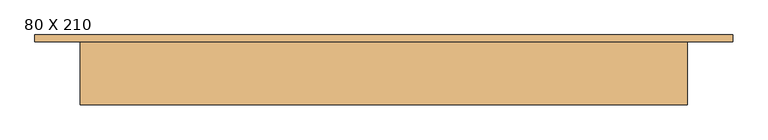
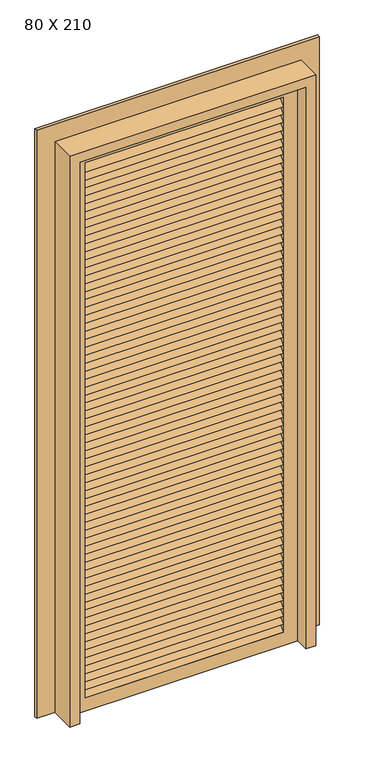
"""IFC4 building model written with IfcOpenShell, lengths in millimetres: door geometry, PORTA VENEZIANA DE ABRIR - 1 FOLHA : 80 X 210."""

from ifc_helpers import new_model, si_unit, frame, origin, place, context, project, spatial, polyline, outline, extrude, source, transform, mapped, element, save


def door_80_x_210_6ad2ea2f(model_context):
    return source(origin(), model_context, "Body", "SweptSolid", [
        extrude(outline(polyline([(40.0, 1985.2272727), (35.0, 1985.2272727), (70.0, 2020.2272727), (75.0, 2020.2272727), (40.0, 1985.2272727)])), frame((-270.0, 0.0, 0.0), z_axis=(1.0, 0.0, 0.0), x_axis=(0.0, 1.0, 0.0)), (0.0, 0.0, 1.0), 700.0),
        extrude(outline(polyline([(40.0, 1955.4545455), (35.0, 1955.4545455), (70.0, 1990.4545455), (75.0, 1990.4545455), (40.0, 1955.4545455)])), frame((-270.0, 0.0, 0.0), z_axis=(1.0, 0.0, 0.0), x_axis=(0.0, 1.0, 0.0)), (0.0, 0.0, 1.0), 700.0),
        extrude(outline(polyline([(40.0, 1925.6818182), (35.0, 1925.6818182), (70.0, 1960.6818182), (75.0, 1960.6818182), (40.0, 1925.6818182)])), frame((-270.0, 0.0, 0.0), z_axis=(1.0, 0.0, 0.0), x_axis=(0.0, 1.0, 0.0)), (0.0, 0.0, 1.0), 700.0),
        extrude(outline(polyline([(40.0, 1895.9090909), (35.0, 1895.9090909), (70.0, 1930.9090909), (75.0, 1930.9090909), (40.0, 1895.9090909)])), frame((-270.0, 0.0, 0.0), z_axis=(1.0, 0.0, 0.0), x_axis=(0.0, 1.0, 0.0)), (0.0, 0.0, 1.0), 700.0),
        extrude(outline(polyline([(40.0, 1866.1363636), (35.0, 1866.1363636), (70.0, 1901.1363636), (75.0, 1901.1363636), (40.0, 1866.1363636)])), frame((-270.0, 0.0, 0.0), z_axis=(1.0, 0.0, 0.0), x_axis=(0.0, 1.0, 0.0)), (0.0, 0.0, 1.0), 700.0),
        extrude(outline(polyline([(40.0, 1836.3636364), (35.0, 1836.3636364), (70.0, 1871.3636364), (75.0, 1871.3636364), (40.0, 1836.3636364)])), frame((-270.0, 0.0, 0.0), z_axis=(1.0, 0.0, 0.0), x_axis=(0.0, 1.0, 0.0)), (0.0, 0.0, 1.0), 700.0),
        extrude(outline(polyline([(40.0, 1806.5909091), (35.0, 1806.5909091), (70.0, 1841.5909091), (75.0, 1841.5909091), (40.0, 1806.5909091)])), frame((-270.0, 0.0, 0.0), z_axis=(1.0, 0.0, 0.0), x_axis=(0.0, 1.0, 0.0)), (0.0, 0.0, 1.0), 700.0),
        extrude(outline(polyline([(40.0, 1776.8181818), (35.0, 1776.8181818), (70.0, 1811.8181818), (75.0, 1811.8181818), (40.0, 1776.8181818)])), frame((-270.0, 0.0, 0.0), z_axis=(1.0, 0.0, 0.0), x_axis=(0.0, 1.0, 0.0)), (0.0, 0.0, 1.0), 700.0),
        extrude(outline(polyline([(40.0, 1747.0454545), (35.0, 1747.0454545), (70.0, 1782.0454545), (75.0, 1782.0454545), (40.0, 1747.0454545)])), frame((-270.0, 0.0, 0.0), z_axis=(1.0, 0.0, 0.0), x_axis=(0.0, 1.0, 0.0)), (0.0, 0.0, 1.0), 700.0),
        extrude(outline(polyline([(40.0, 1717.2727273), (35.0, 1717.2727273), (70.0, 1752.2727273), (75.0, 1752.2727273), (40.0, 1717.2727273)])), frame((-270.0, 0.0, 0.0), z_axis=(1.0, 0.0, 0.0), x_axis=(0.0, 1.0, 0.0)), (0.0, 0.0, 1.0), 700.0),
        extrude(outline(polyline([(40.0, 1687.5), (35.0, 1687.5), (70.0, 1722.5), (75.0, 1722.5), (40.0, 1687.5)])), frame((-270.0, 0.0, 0.0), z_axis=(1.0, 0.0, 0.0), x_axis=(0.0, 1.0, 0.0)), (0.0, 0.0, 1.0), 700.0),
        extrude(outline(polyline([(40.0, 1657.7272727), (35.0, 1657.7272727), (70.0, 1692.7272727), (75.0, 1692.7272727), (40.0, 1657.7272727)])), frame((-270.0, 0.0, 0.0), z_axis=(1.0, 0.0, 0.0), x_axis=(0.0, 1.0, 0.0)), (0.0, 0.0, 1.0), 700.0),
        extrude(outline(polyline([(40.0, 1627.9545455), (35.0, 1627.9545455), (70.0, 1662.9545455), (75.0, 1662.9545455), (40.0, 1627.9545455)])), frame((-270.0, 0.0, 0.0), z_axis=(1.0, 0.0, 0.0), x_axis=(0.0, 1.0, 0.0)), (0.0, 0.0, 1.0), 700.0),
        extrude(outline(polyline([(40.0, 1598.1818182), (35.0, 1598.1818182), (70.0, 1633.1818182), (75.0, 1633.1818182), (40.0, 1598.1818182)])), frame((-270.0, 0.0, 0.0), z_axis=(1.0, 0.0, 0.0), x_axis=(0.0, 1.0, 0.0)), (0.0, 0.0, 1.0), 700.0),
        extrude(outline(polyline([(40.0, 1568.4090909), (35.0, 1568.4090909), (70.0, 1603.4090909), (75.0, 1603.4090909), (40.0, 1568.4090909)])), frame((-270.0, 0.0, 0.0), z_axis=(1.0, 0.0, 0.0), x_axis=(0.0, 1.0, 0.0)), (0.0, 0.0, 1.0), 700.0),
        extrude(outline(polyline([(40.0, 1538.6363636), (35.0, 1538.6363636), (70.0, 1573.6363636), (75.0, 1573.6363636), (40.0, 1538.6363636)])), frame((-270.0, 0.0, 0.0), z_axis=(1.0, 0.0, 0.0), x_axis=(0.0, 1.0, 0.0)), (0.0, 0.0, 1.0), 700.0),
        extrude(outline(polyline([(40.0, 1508.8636364), (35.0, 1508.8636364), (70.0, 1543.8636364), (75.0, 1543.8636364), (40.0, 1508.8636364)])), frame((-270.0, 0.0, 0.0), z_axis=(1.0, 0.0, 0.0), x_axis=(0.0, 1.0, 0.0)), (0.0, 0.0, 1.0), 700.0),
        extrude(outline(polyline([(40.0, 1479.0909091), (35.0, 1479.0909091), (70.0, 1514.0909091), (75.0, 1514.0909091), (40.0, 1479.0909091)])), frame((-270.0, 0.0, 0.0), z_axis=(1.0, 0.0, 0.0), x_axis=(0.0, 1.0, 0.0)), (0.0, 0.0, 1.0), 700.0),
        extrude(outline(polyline([(40.0, 1449.3181818), (35.0, 1449.3181818), (70.0, 1484.3181818), (75.0, 1484.3181818), (40.0, 1449.3181818)])), frame((-270.0, 0.0, 0.0), z_axis=(1.0, 0.0, 0.0), x_axis=(0.0, 1.0, 0.0)), (0.0, 0.0, 1.0), 700.0),
        extrude(outline(polyline([(40.0, 1419.5454545), (35.0, 1419.5454545), (70.0, 1454.5454545), (75.0, 1454.5454545), (40.0, 1419.5454545)])), frame((-270.0, 0.0, 0.0), z_axis=(1.0, 0.0, 0.0), x_axis=(0.0, 1.0, 0.0)), (0.0, 0.0, 1.0), 700.0),
        extrude(outline(polyline([(40.0, 1389.7727273), (35.0, 1389.7727273), (70.0, 1424.7727273), (75.0, 1424.7727273), (40.0, 1389.7727273)])), frame((-270.0, 0.0, 0.0), z_axis=(1.0, 0.0, 0.0), x_axis=(0.0, 1.0, 0.0)), (0.0, 0.0, 1.0), 700.0),
        extrude(outline(polyline([(40.0, 1360.0), (35.0, 1360.0), (70.0, 1395.0), (75.0, 1395.0), (40.0, 1360.0)])), frame((-270.0, 0.0, 0.0), z_axis=(1.0, 0.0, 0.0), x_axis=(0.0, 1.0, 0.0)), (0.0, 0.0, 1.0), 700.0),
        extrude(outline(polyline([(40.0, 1330.2272727), (35.0, 1330.2272727), (70.0, 1365.2272727), (75.0, 1365.2272727), (40.0, 1330.2272727)])), frame((-270.0, 0.0, 0.0), z_axis=(1.0, 0.0, 0.0), x_axis=(0.0, 1.0, 0.0)), (0.0, 0.0, 1.0), 700.0),
        extrude(outline(polyline([(40.0, 1300.4545455), (35.0, 1300.4545455), (70.0, 1335.4545455), (75.0, 1335.4545455), (40.0, 1300.4545455)])), frame((-270.0, 0.0, 0.0), z_axis=(1.0, 0.0, 0.0), x_axis=(0.0, 1.0, 0.0)), (0.0, 0.0, 1.0), 700.0),
        extrude(outline(polyline([(40.0, 1270.6818182), (35.0, 1270.6818182), (70.0, 1305.6818182), (75.0, 1305.6818182), (40.0, 1270.6818182)])), frame((-270.0, 0.0, 0.0), z_axis=(1.0, 0.0, 0.0), x_axis=(0.0, 1.0, 0.0)), (0.0, 0.0, 1.0), 700.0),
        extrude(outline(polyline([(40.0, 1240.9090909), (35.0, 1240.9090909), (70.0, 1275.9090909), (75.0, 1275.9090909), (40.0, 1240.9090909)])), frame((-270.0, 0.0, 0.0), z_axis=(1.0, 0.0, 0.0), x_axis=(0.0, 1.0, 0.0)), (0.0, 0.0, 1.0), 700.0),
        extrude(outline(polyline([(40.0, 1211.1363636), (35.0, 1211.1363636), (70.0, 1246.1363636), (75.0, 1246.1363636), (40.0, 1211.1363636)])), frame((-270.0, 0.0, 0.0), z_axis=(1.0, 0.0, 0.0), x_axis=(0.0, 1.0, 0.0)), (0.0, 0.0, 1.0), 700.0),
        extrude(outline(polyline([(40.0, 1181.3636364), (35.0, 1181.3636364), (70.0, 1216.3636364), (75.0, 1216.3636364), (40.0, 1181.3636364)])), frame((-270.0, 0.0, 0.0), z_axis=(1.0, 0.0, 0.0), x_axis=(0.0, 1.0, 0.0)), (0.0, 0.0, 1.0), 700.0),
        extrude(outline(polyline([(40.0, 1151.5909091), (35.0, 1151.5909091), (70.0, 1186.5909091), (75.0, 1186.5909091), (40.0, 1151.5909091)])), frame((-270.0, 0.0, 0.0), z_axis=(1.0, 0.0, 0.0), x_axis=(0.0, 1.0, 0.0)), (0.0, 0.0, 1.0), 700.0),
        extrude(outline(polyline([(40.0, 1121.8181818), (35.0, 1121.8181818), (70.0, 1156.8181818), (75.0, 1156.8181818), (40.0, 1121.8181818)])), frame((-270.0, 0.0, 0.0), z_axis=(1.0, 0.0, 0.0), x_axis=(0.0, 1.0, 0.0)), (0.0, 0.0, 1.0), 700.0),
        extrude(outline(polyline([(40.0, 1092.0454545), (35.0, 1092.0454545), (70.0, 1127.0454545), (75.0, 1127.0454545), (40.0, 1092.0454545)])), frame((-270.0, 0.0, 0.0), z_axis=(1.0, 0.0, 0.0), x_axis=(0.0, 1.0, 0.0)), (0.0, 0.0, 1.0), 700.0),
        extrude(outline(polyline([(40.0, 1062.2727273), (35.0, 1062.2727273), (70.0, 1097.2727273), (75.0, 1097.2727273), (40.0, 1062.2727273)])), frame((-270.0, 0.0, 0.0), z_axis=(1.0, 0.0, 0.0), x_axis=(0.0, 1.0, 0.0)), (0.0, 0.0, 1.0), 700.0),
        extrude(outline(polyline([(40.0, 1032.5), (35.0, 1032.5), (70.0, 1067.5), (75.0, 1067.5), (40.0, 1032.5)])), frame((-270.0, 0.0, 0.0), z_axis=(1.0, 0.0, 0.0), x_axis=(0.0, 1.0, 0.0)), (0.0, 0.0, 1.0), 700.0),
        extrude(outline(polyline([(40.0, 1002.7272727), (35.0, 1002.7272727), (70.0, 1037.7272727), (75.0, 1037.7272727), (40.0, 1002.7272727)])), frame((-270.0, 0.0, 0.0), z_axis=(1.0, 0.0, 0.0), x_axis=(0.0, 1.0, 0.0)), (0.0, 0.0, 1.0), 700.0),
        extrude(outline(polyline([(40.0, 972.9545455), (35.0, 972.9545455), (70.0, 1007.9545455), (75.0, 1007.9545455), (40.0, 972.9545455)])), frame((-270.0, 0.0, 0.0), z_axis=(1.0, 0.0, 0.0), x_axis=(0.0, 1.0, 0.0)), (0.0, 0.0, 1.0), 700.0),
        extrude(outline(polyline([(40.0, 943.1818182), (35.0, 943.1818182), (70.0, 978.1818182), (75.0, 978.1818182), (40.0, 943.1818182)])), frame((-270.0, 0.0, 0.0), z_axis=(1.0, 0.0, 0.0), x_axis=(0.0, 1.0, 0.0)), (0.0, 0.0, 1.0), 700.0),
        extrude(outline(polyline([(40.0, 913.4090909), (35.0, 913.4090909), (70.0, 948.4090909), (75.0, 948.4090909), (40.0, 913.4090909)])), frame((-270.0, 0.0, 0.0), z_axis=(1.0, 0.0, 0.0), x_axis=(0.0, 1.0, 0.0)), (0.0, 0.0, 1.0), 700.0),
        extrude(outline(polyline([(40.0, 883.6363636), (35.0, 883.6363636), (70.0, 918.6363636), (75.0, 918.6363636), (40.0, 883.6363636)])), frame((-270.0, 0.0, 0.0), z_axis=(1.0, 0.0, 0.0), x_axis=(0.0, 1.0, 0.0)), (0.0, 0.0, 1.0), 700.0),
        extrude(outline(polyline([(40.0, 853.8636364), (35.0, 853.8636364), (70.0, 888.8636364), (75.0, 888.8636364), (40.0, 853.8636364)])), frame((-270.0, 0.0, 0.0), z_axis=(1.0, 0.0, 0.0), x_axis=(0.0, 1.0, 0.0)), (0.0, 0.0, 1.0), 700.0),
        extrude(outline(polyline([(40.0, 824.0909091), (35.0, 824.0909091), (70.0, 859.0909091), (75.0, 859.0909091), (40.0, 824.0909091)])), frame((-270.0, 0.0, 0.0), z_axis=(1.0, 0.0, 0.0), x_axis=(0.0, 1.0, 0.0)), (0.0, 0.0, 1.0), 700.0),
        extrude(outline(polyline([(40.0, 794.3181818), (35.0, 794.3181818), (70.0, 829.3181818), (75.0, 829.3181818), (40.0, 794.3181818)])), frame((-270.0, 0.0, 0.0), z_axis=(1.0, 0.0, 0.0), x_axis=(0.0, 1.0, 0.0)), (0.0, 0.0, 1.0), 700.0),
        extrude(outline(polyline([(40.0, 764.5454545), (35.0, 764.5454545), (70.0, 799.5454545), (75.0, 799.5454545), (40.0, 764.5454545)])), frame((-270.0, 0.0, 0.0), z_axis=(1.0, 0.0, 0.0), x_axis=(0.0, 1.0, 0.0)), (0.0, 0.0, 1.0), 700.0),
        extrude(outline(polyline([(40.0, 734.7727273), (35.0, 734.7727273), (70.0, 769.7727273), (75.0, 769.7727273), (40.0, 734.7727273)])), frame((-270.0, 0.0, 0.0), z_axis=(1.0, 0.0, 0.0), x_axis=(0.0, 1.0, 0.0)), (0.0, 0.0, 1.0), 700.0),
        extrude(outline(polyline([(40.0, 705.0), (35.0, 705.0), (70.0, 740.0), (75.0, 740.0), (40.0, 705.0)])), frame((-270.0, 0.0, 0.0), z_axis=(1.0, 0.0, 0.0), x_axis=(0.0, 1.0, 0.0)), (0.0, 0.0, 1.0), 700.0),
        extrude(outline(polyline([(40.0, 675.2272727), (35.0, 675.2272727), (70.0, 710.2272727), (75.0, 710.2272727), (40.0, 675.2272727)])), frame((-270.0, 0.0, 0.0), z_axis=(1.0, 0.0, 0.0), x_axis=(0.0, 1.0, 0.0)), (0.0, 0.0, 1.0), 700.0),
        extrude(outline(polyline([(40.0, 645.4545455), (35.0, 645.4545455), (70.0, 680.4545455), (75.0, 680.4545455), (40.0, 645.4545455)])), frame((-270.0, 0.0, 0.0), z_axis=(1.0, 0.0, 0.0), x_axis=(0.0, 1.0, 0.0)), (0.0, 0.0, 1.0), 700.0),
        extrude(outline(polyline([(40.0, 615.6818182), (35.0, 615.6818182), (70.0, 650.6818182), (75.0, 650.6818182), (40.0, 615.6818182)])), frame((-270.0, 0.0, 0.0), z_axis=(1.0, 0.0, 0.0), x_axis=(0.0, 1.0, 0.0)), (0.0, 0.0, 1.0), 700.0),
        extrude(outline(polyline([(40.0, 585.9090909), (35.0, 585.9090909), (70.0, 620.9090909), (75.0, 620.9090909), (40.0, 585.9090909)])), frame((-270.0, 0.0, 0.0), z_axis=(1.0, 0.0, 0.0), x_axis=(0.0, 1.0, 0.0)), (0.0, 0.0, 1.0), 700.0),
        extrude(outline(polyline([(40.0, 556.1363636), (35.0, 556.1363636), (70.0, 591.1363636), (75.0, 591.1363636), (40.0, 556.1363636)])), frame((-270.0, 0.0, 0.0), z_axis=(1.0, 0.0, 0.0), x_axis=(0.0, 1.0, 0.0)), (0.0, 0.0, 1.0), 700.0),
        extrude(outline(polyline([(40.0, 526.3636364), (35.0, 526.3636364), (70.0, 561.3636364), (75.0, 561.3636364), (40.0, 526.3636364)])), frame((-270.0, 0.0, 0.0), z_axis=(1.0, 0.0, 0.0), x_axis=(0.0, 1.0, 0.0)), (0.0, 0.0, 1.0), 700.0),
        extrude(outline(polyline([(40.0, 496.5909091), (35.0, 496.5909091), (70.0, 531.5909091), (75.0, 531.5909091), (40.0, 496.5909091)])), frame((-270.0, 0.0, 0.0), z_axis=(1.0, 0.0, 0.0), x_axis=(0.0, 1.0, 0.0)), (0.0, 0.0, 1.0), 700.0),
        extrude(outline(polyline([(40.0, 466.8181818), (35.0, 466.8181818), (70.0, 501.8181818), (75.0, 501.8181818), (40.0, 466.8181818)])), frame((-270.0, 0.0, 0.0), z_axis=(1.0, 0.0, 0.0), x_axis=(0.0, 1.0, 0.0)), (0.0, 0.0, 1.0), 700.0),
        extrude(outline(polyline([(40.0, 437.0454545), (35.0, 437.0454545), (70.0, 472.0454545), (75.0, 472.0454545), (40.0, 437.0454545)])), frame((-270.0, 0.0, 0.0), z_axis=(1.0, 0.0, 0.0), x_axis=(0.0, 1.0, 0.0)), (0.0, 0.0, 1.0), 700.0),
        extrude(outline(polyline([(40.0, 407.2727273), (35.0, 407.2727273), (70.0, 442.2727273), (75.0, 442.2727273), (40.0, 407.2727273)])), frame((-270.0, 0.0, 0.0), z_axis=(1.0, 0.0, 0.0), x_axis=(0.0, 1.0, 0.0)), (0.0, 0.0, 1.0), 700.0),
        extrude(outline(polyline([(40.0, 377.5), (35.0, 377.5), (70.0, 412.5), (75.0, 412.5), (40.0, 377.5)])), frame((-270.0, 0.0, 0.0), z_axis=(1.0, 0.0, 0.0), x_axis=(0.0, 1.0, 0.0)), (0.0, 0.0, 1.0), 700.0),
        extrude(outline(polyline([(40.0, 347.7272727), (35.0, 347.7272727), (70.0, 382.7272727), (75.0, 382.7272727), (40.0, 347.7272727)])), frame((-270.0, 0.0, 0.0), z_axis=(1.0, 0.0, 0.0), x_axis=(0.0, 1.0, 0.0)), (0.0, 0.0, 1.0), 700.0),
        extrude(outline(polyline([(40.0, 317.9545455), (35.0, 317.9545455), (70.0, 352.9545455), (75.0, 352.9545455), (40.0, 317.9545455)])), frame((-270.0, 0.0, 0.0), z_axis=(1.0, 0.0, 0.0), x_axis=(0.0, 1.0, 0.0)), (0.0, 0.0, 1.0), 700.0),
        extrude(outline(polyline([(40.0, 288.1818182), (35.0, 288.1818182), (70.0, 323.1818182), (75.0, 323.1818182), (40.0, 288.1818182)])), frame((-270.0, 0.0, 0.0), z_axis=(1.0, 0.0, 0.0), x_axis=(0.0, 1.0, 0.0)), (0.0, 0.0, 1.0), 700.0),
        extrude(outline(polyline([(40.0, 258.4090909), (35.0, 258.4090909), (70.0, 293.4090909), (75.0, 293.4090909), (40.0, 258.4090909)])), frame((-270.0, 0.0, 0.0), z_axis=(1.0, 0.0, 0.0), x_axis=(0.0, 1.0, 0.0)), (0.0, 0.0, 1.0), 700.0),
        extrude(outline(polyline([(40.0, 228.6363636), (35.0, 228.6363636), (70.0, 263.6363636), (75.0, 263.6363636), (40.0, 228.6363636)])), frame((-270.0, 0.0, 0.0), z_axis=(1.0, 0.0, 0.0), x_axis=(0.0, 1.0, 0.0)), (0.0, 0.0, 1.0), 700.0),
        extrude(outline(polyline([(40.0, 198.8636364), (35.0, 198.8636364), (70.0, 233.8636364), (75.0, 233.8636364), (40.0, 198.8636364)])), frame((-270.0, 0.0, 0.0), z_axis=(1.0, 0.0, 0.0), x_axis=(0.0, 1.0, 0.0)), (0.0, 0.0, 1.0), 700.0),
        extrude(outline(polyline([(40.0, 169.0909091), (35.0, 169.0909091), (70.0, 204.0909091), (75.0, 204.0909091), (40.0, 169.0909091)])), frame((-270.0, 0.0, 0.0), z_axis=(1.0, 0.0, 0.0), x_axis=(0.0, 1.0, 0.0)), (0.0, 0.0, 1.0), 700.0),
        extrude(outline(polyline([(40.0, 139.3181818), (35.0, 139.3181818), (70.0, 174.3181818), (75.0, 174.3181818), (40.0, 139.3181818)])), frame((-270.0, 0.0, 0.0), z_axis=(1.0, 0.0, 0.0), x_axis=(0.0, 1.0, 0.0)), (0.0, 0.0, 1.0), 700.0),
        extrude(outline(polyline([(40.0, 109.5454545), (35.0, 109.5454545), (70.0, 144.5454545), (75.0, 144.5454545), (40.0, 109.5454545)])), frame((-270.0, 0.0, 0.0), z_axis=(1.0, 0.0, 0.0), x_axis=(0.0, 1.0, 0.0)), (0.0, 0.0, 1.0), 700.0),
        extrude(outline(polyline([(40.0, 79.7727273), (35.0, 79.7727273), (70.0, 114.7727273), (75.0, 114.7727273), (40.0, 79.7727273)])), frame((-270.0, 0.0, 0.0), z_axis=(1.0, 0.0, 0.0), x_axis=(0.0, 1.0, 0.0)), (0.0, 0.0, 1.0), 700.0),
        extrude(outline(polyline([(40.0, 2015.0), (35.0, 2015.0), (70.0, 2050.0), (75.0, 2050.0), (40.0, 2015.0)])), frame((-270.0, 0.0, 0.0), z_axis=(1.0, 0.0, 0.0), x_axis=(0.0, 1.0, 0.0)), (0.0, 0.0, 1.0), 700.0),
        extrude(outline(polyline([(40.0, 50.0), (35.0, 50.0), (70.0, 85.0), (75.0, 85.0), (40.0, 50.0)])), frame((-270.0, 0.0, 0.0), z_axis=(1.0, 0.0, 0.0), x_axis=(0.0, 1.0, 0.0)), (0.0, 0.0, 1.0), 700.0),
        extrude(outline(polyline([(2100.0, 480.0), (2100.0, -320.0), (0.0, -320.0), (0.0, 480.0), (2100.0, 480.0)]), holes=[polyline([(2050.0, 430.0), (50.0, 430.0), (50.0, -270.0), (2050.0, -270.0), (2050.0, 430.0)])]), frame((0.0, 35.0, 0.0), z_axis=(0.0, 1.0, 0.0), x_axis=(0.0, 0.0, 1.0)), (0.0, 0.0, 1.0), 40.0),
        extrude(outline(polyline([(2100.0, -320.0), (2100.0, 480.0), (0.0, 480.0), (0.0, 580.0), (2200.0, 580.0), (2200.0, -420.0), (0.0, -420.0), (0.0, -320.0), (2100.0, -320.0)])), frame((0.0, 75.0, 0.0), z_axis=(0.0, 1.0, 0.0), x_axis=(0.0, 0.0, 1.0)), (0.0, 0.0, 1.0), 10.0),
        extrude(outline(polyline([(0.0, -320.0), (2100.0, -320.0), (2100.0, 480.0), (0.0, 480.0), (0.0, 515.0), (2135.0, 515.0), (2135.0, -355.0), (0.0, -355.0), (0.0, -320.0)])), frame((0.0, -15.0, 0.0), z_axis=(0.0, 1.0, 0.0), x_axis=(0.0, 0.0, 1.0)), (0.0, 0.0, 1.0), 90.0),
    ])


if __name__ == "__main__":
    model = new_model("IFC4")
    model_context = context("Model", 3, world=origin())
    ifc_project = project(units=[si_unit("LENGTHUNIT", "METRE", prefix="MILLI")], contexts=[model_context])
    site = spatial("IfcSite", under=ifc_project)
    building = spatial("IfcBuilding", under=site)
    placement = place(None, origin())
    door_80_x_210_shape = door_80_x_210_6ad2ea2f(model_context)
    element("IfcDoor", 1, ObjectType="PORTA VENEZIANA DE ABRIR - 1 FOLHA : 80 X 210", at=placement, inside=building, context=model_context, shape_type="MappedRepresentation", body=[
        mapped(door_80_x_210_shape, transform((0.0, 0.0, 0.0), x_axis=(1.0, 0.0, 0.0), y_axis=(0.0, 1.0, 0.0), z_axis=(0.0, 0.0, 1.0))),
    ])
    save(model, "model.ifc")
